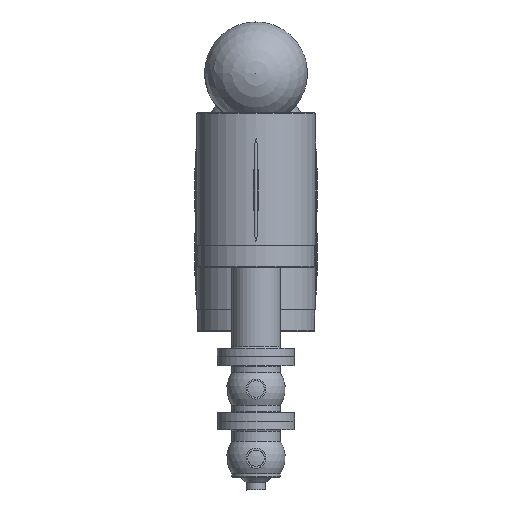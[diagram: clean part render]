
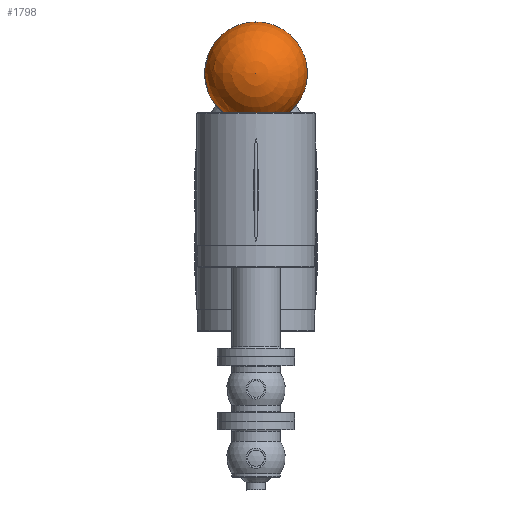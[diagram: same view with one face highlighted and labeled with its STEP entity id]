
A CAD part, front view. The second image highlights one B-rep face of the part: STEP entity #1798.
In plain terms, the highlighted spherical face has radius 72.5 mm.
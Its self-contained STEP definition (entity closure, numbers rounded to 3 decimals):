
#184=SPHERICAL_SURFACE('',#2162,72.5);
#206=FACE_BOUND('',#438,.T.);
#316=FACE_OUTER_BOUND('',#437,.T.);
#437=EDGE_LOOP('',(#1540,#1541));
#438=EDGE_LOOP('',(#1542));
#586=CIRCLE('',#2163,72.5);
#587=CIRCLE('',#2164,46.648);
#896=VERTEX_POINT('',#3817);
#897=VERTEX_POINT('',#3818);
#898=VERTEX_POINT('',#3820);
#1123=EDGE_CURVE('',#896,#897,#586,.T.);
#1124=EDGE_CURVE('',#898,#898,#587,.T.);
#1540=ORIENTED_EDGE('',*,*,#1123,.T.);
#1541=ORIENTED_EDGE('',*,*,#1123,.F.);
#1542=ORIENTED_EDGE('',*,*,#1124,.F.);
#1798=ADVANCED_FACE('',(#316,#206),#184,.T.);
#2162=AXIS2_PLACEMENT_3D('',#3816,#2666,#2667);
#2163=AXIS2_PLACEMENT_3D('',#3819,#2668,#2669);
#2164=AXIS2_PLACEMENT_3D('',#3821,#2670,#2671);
#2666=DIRECTION('center_axis',(0.,0.,1.));
#2667=DIRECTION('ref_axis',(1.,0.,0.));
#2668=DIRECTION('center_axis',(0.,-1.,0.));
#2669=DIRECTION('ref_axis',(-1.,0.,0.));
#2670=DIRECTION('center_axis',(0.,-1.,0.));
#2671=DIRECTION('ref_axis',(1.,0.,0.));
#3816=CARTESIAN_POINT('Origin',(150.,266.5,0.));
#3817=CARTESIAN_POINT('',(150.,266.5,72.5));
#3818=CARTESIAN_POINT('',(150.,266.5,-72.5));
#3819=CARTESIAN_POINT('Origin',(150.,266.5,0.));
#3820=CARTESIAN_POINT('',(196.648,211.,0.));
#3821=CARTESIAN_POINT('Origin',(150.,211.,0.));
